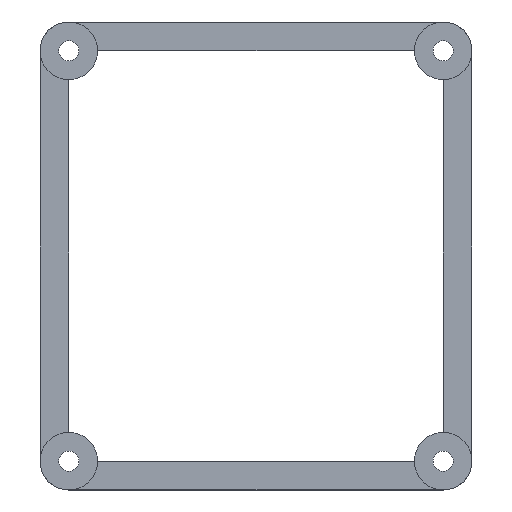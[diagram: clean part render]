
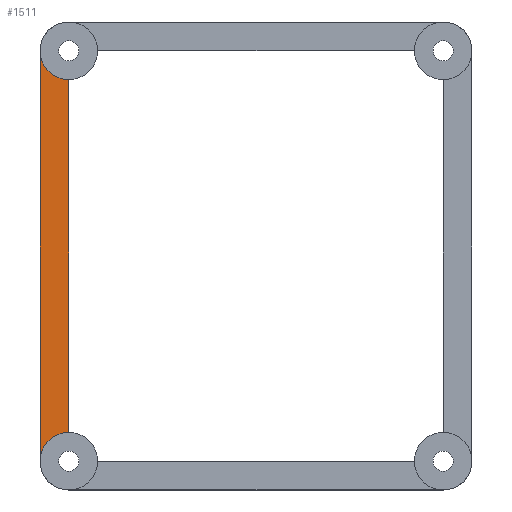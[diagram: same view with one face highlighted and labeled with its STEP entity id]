
A CAD part, top view. The second image highlights one B-rep face of the part: STEP entity #1511.
In plain terms, the highlighted planar face has unit normal (0, 0, 1).
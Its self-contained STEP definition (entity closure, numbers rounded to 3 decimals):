
#24 = VERTEX_POINT('',#25);
#25 = CARTESIAN_POINT('',(0.,4.,2.4));
#32 = PLANE('',#33);
#33 = AXIS2_PLACEMENT_3D('',#34,#35,#36);
#34 = CARTESIAN_POINT('',(0.,0.,0.));
#35 = DIRECTION('',(1.,0.,0.));
#36 = DIRECTION('',(0.,0.,1.));
#141 = VERTEX_POINT('',#142);
#142 = CARTESIAN_POINT('',(0.,61.,2.4));
#168 = EDGE_CURVE('',#24,#141,#169,.T.);
#169 = SURFACE_CURVE('',#170,(#174,#181),.PCURVE_S1.);
#170 = LINE('',#171,#172);
#171 = CARTESIAN_POINT('',(0.,0.,2.4));
#172 = VECTOR('',#173,1.);
#173 = DIRECTION('',(0.,1.,0.));
#174 = PCURVE('',#32,#175);
#175 = DEFINITIONAL_REPRESENTATION('',(#176),#180);
#176 = LINE('',#177,#178);
#177 = CARTESIAN_POINT('',(2.4,0.));
#178 = VECTOR('',#179,1.);
#179 = DIRECTION('',(0.,-1.));
#180 = ( GEOMETRIC_REPRESENTATION_CONTEXT(2) 
PARAMETRIC_REPRESENTATION_CONTEXT() REPRESENTATION_CONTEXT('2D SPACE',''
  ) );
#181 = PCURVE('',#182,#187);
#182 = PLANE('',#183);
#183 = AXIS2_PLACEMENT_3D('',#184,#185,#186);
#184 = CARTESIAN_POINT('',(0.,0.,2.4));
#185 = DIRECTION('',(0.,0.,1.));
#186 = DIRECTION('',(1.,0.,0.));
#187 = DEFINITIONAL_REPRESENTATION('',(#188),#192);
#188 = LINE('',#189,#190);
#189 = CARTESIAN_POINT('',(0.,0.));
#190 = VECTOR('',#191,1.);
#191 = DIRECTION('',(0.,1.));
#192 = ( GEOMETRIC_REPRESENTATION_CONTEXT(2) 
PARAMETRIC_REPRESENTATION_CONTEXT() REPRESENTATION_CONTEXT('2D SPACE',''
  ) );
#269 = CYLINDRICAL_SURFACE('',#270,4.);
#270 = AXIS2_PLACEMENT_3D('',#271,#272,#273);
#271 = CARTESIAN_POINT('',(4.,4.,0.));
#272 = DIRECTION('',(-0.,-0.,-1.));
#273 = DIRECTION('',(1.,0.,0.));
#1057 = PLANE('',#1058);
#1058 = AXIS2_PLACEMENT_3D('',#1059,#1060,#1061);
#1059 = CARTESIAN_POINT('',(4.,4.,-0.3));
#1060 = DIRECTION('',(1.,0.,0.));
#1061 = DIRECTION('',(0.,0.,1.));
#1085 = CYLINDRICAL_SURFACE('',#1086,4.);
#1086 = AXIS2_PLACEMENT_3D('',#1087,#1088,#1089);
#1087 = CARTESIAN_POINT('',(4.,61.,0.));
#1088 = DIRECTION('',(-0.,-0.,-1.));
#1089 = DIRECTION('',(1.,0.,0.));
#1511 = ADVANCED_FACE('',(#1512),#182,.T.);
#1512 = FACE_BOUND('',#1513,.T.);
#1513 = EDGE_LOOP('',(#1514,#1515,#1543,#1564));
#1514 = ORIENTED_EDGE('',*,*,#168,.F.);
#1515 = ORIENTED_EDGE('',*,*,#1516,.T.);
#1516 = EDGE_CURVE('',#24,#1517,#1519,.T.);
#1517 = VERTEX_POINT('',#1518);
#1518 = CARTESIAN_POINT('',(4.,8.,2.4));
#1519 = SURFACE_CURVE('',#1520,(#1525,#1536),.PCURVE_S1.);
#1520 = CIRCLE('',#1521,4.);
#1521 = AXIS2_PLACEMENT_3D('',#1522,#1523,#1524);
#1522 = CARTESIAN_POINT('',(4.,4.,2.4));
#1523 = DIRECTION('',(0.,0.,-1.));
#1524 = DIRECTION('',(1.,0.,0.));
#1525 = PCURVE('',#182,#1526);
#1526 = DEFINITIONAL_REPRESENTATION('',(#1527),#1535);
#1527 = ( BOUNDED_CURVE() B_SPLINE_CURVE(2,(#1528,#1529,#1530,#1531,
#1532,#1533,#1534),.UNSPECIFIED.,.T.,.F.) B_SPLINE_CURVE_WITH_KNOTS((1,2
    ,2,2,2,1),(-2.094,0.,2.094,4.189,
6.283,8.378),.UNSPECIFIED.) CURVE() 
GEOMETRIC_REPRESENTATION_ITEM() RATIONAL_B_SPLINE_CURVE((1.,0.5,1.,0.5,
1.,0.5,1.)) REPRESENTATION_ITEM('') );
#1528 = CARTESIAN_POINT('',(8.,4.));
#1529 = CARTESIAN_POINT('',(8.,-2.928));
#1530 = CARTESIAN_POINT('',(2.,0.536));
#1531 = CARTESIAN_POINT('',(-4.,4.));
#1532 = CARTESIAN_POINT('',(2.,7.464));
#1533 = CARTESIAN_POINT('',(8.,10.928));
#1534 = CARTESIAN_POINT('',(8.,4.));
#1535 = ( GEOMETRIC_REPRESENTATION_CONTEXT(2) 
PARAMETRIC_REPRESENTATION_CONTEXT() REPRESENTATION_CONTEXT('2D SPACE',''
  ) );
#1536 = PCURVE('',#269,#1537);
#1537 = DEFINITIONAL_REPRESENTATION('',(#1538),#1542);
#1538 = LINE('',#1539,#1540);
#1539 = CARTESIAN_POINT('',(-6.283,-2.4));
#1540 = VECTOR('',#1541,1.);
#1541 = DIRECTION('',(1.,-0.));
#1542 = ( GEOMETRIC_REPRESENTATION_CONTEXT(2) 
PARAMETRIC_REPRESENTATION_CONTEXT() REPRESENTATION_CONTEXT('2D SPACE',''
  ) );
#1543 = ORIENTED_EDGE('',*,*,#1544,.T.);
#1544 = EDGE_CURVE('',#1517,#1545,#1547,.T.);
#1545 = VERTEX_POINT('',#1546);
#1546 = CARTESIAN_POINT('',(4.,57.,2.4));
#1547 = SURFACE_CURVE('',#1548,(#1552,#1558),.PCURVE_S1.);
#1548 = LINE('',#1549,#1550);
#1549 = CARTESIAN_POINT('',(4.,2.,2.4));
#1550 = VECTOR('',#1551,1.);
#1551 = DIRECTION('',(0.,1.,0.));
#1552 = PCURVE('',#182,#1553);
#1553 = DEFINITIONAL_REPRESENTATION('',(#1554),#1557);
#1554 = B_SPLINE_CURVE_WITH_KNOTS('',1,(#1555,#1556),.UNSPECIFIED.,.F.,
  .F.,(2,2),(4.,57.),.PIECEWISE_BEZIER_KNOTS.);
#1555 = CARTESIAN_POINT('',(4.,6.));
#1556 = CARTESIAN_POINT('',(4.,59.));
#1557 = ( GEOMETRIC_REPRESENTATION_CONTEXT(2) 
PARAMETRIC_REPRESENTATION_CONTEXT() REPRESENTATION_CONTEXT('2D SPACE',''
  ) );
#1558 = PCURVE('',#1057,#1559);
#1559 = DEFINITIONAL_REPRESENTATION('',(#1560),#1563);
#1560 = B_SPLINE_CURVE_WITH_KNOTS('',1,(#1561,#1562),.UNSPECIFIED.,.F.,
  .F.,(2,2),(4.,57.),.PIECEWISE_BEZIER_KNOTS.);
#1561 = CARTESIAN_POINT('',(2.7,-2.));
#1562 = CARTESIAN_POINT('',(2.7,-55.));
#1563 = ( GEOMETRIC_REPRESENTATION_CONTEXT(2) 
PARAMETRIC_REPRESENTATION_CONTEXT() REPRESENTATION_CONTEXT('2D SPACE',''
  ) );
#1564 = ORIENTED_EDGE('',*,*,#1565,.T.);
#1565 = EDGE_CURVE('',#1545,#141,#1566,.T.);
#1566 = SURFACE_CURVE('',#1567,(#1572,#1583),.PCURVE_S1.);
#1567 = CIRCLE('',#1568,4.);
#1568 = AXIS2_PLACEMENT_3D('',#1569,#1570,#1571);
#1569 = CARTESIAN_POINT('',(4.,61.,2.4));
#1570 = DIRECTION('',(0.,0.,-1.));
#1571 = DIRECTION('',(1.,0.,0.));
#1572 = PCURVE('',#182,#1573);
#1573 = DEFINITIONAL_REPRESENTATION('',(#1574),#1582);
#1574 = ( BOUNDED_CURVE() B_SPLINE_CURVE(2,(#1575,#1576,#1577,#1578,
#1579,#1580,#1581),.UNSPECIFIED.,.T.,.F.) B_SPLINE_CURVE_WITH_KNOTS((1,2
    ,2,2,2,1),(-2.094,0.,2.094,4.189,
6.283,8.378),.UNSPECIFIED.) CURVE() 
GEOMETRIC_REPRESENTATION_ITEM() RATIONAL_B_SPLINE_CURVE((1.,0.5,1.,0.5,
1.,0.5,1.)) REPRESENTATION_ITEM('') );
#1575 = CARTESIAN_POINT('',(8.,61.));
#1576 = CARTESIAN_POINT('',(8.,54.072));
#1577 = CARTESIAN_POINT('',(2.,57.536));
#1578 = CARTESIAN_POINT('',(-4.,61.));
#1579 = CARTESIAN_POINT('',(2.,64.464));
#1580 = CARTESIAN_POINT('',(8.,67.928));
#1581 = CARTESIAN_POINT('',(8.,61.));
#1582 = ( GEOMETRIC_REPRESENTATION_CONTEXT(2) 
PARAMETRIC_REPRESENTATION_CONTEXT() REPRESENTATION_CONTEXT('2D SPACE',''
  ) );
#1583 = PCURVE('',#1085,#1584);
#1584 = DEFINITIONAL_REPRESENTATION('',(#1585),#1589);
#1585 = LINE('',#1586,#1587);
#1586 = CARTESIAN_POINT('',(-6.283,-2.4));
#1587 = VECTOR('',#1588,1.);
#1588 = DIRECTION('',(1.,-0.));
#1589 = ( GEOMETRIC_REPRESENTATION_CONTEXT(2) 
PARAMETRIC_REPRESENTATION_CONTEXT() REPRESENTATION_CONTEXT('2D SPACE',''
  ) );
